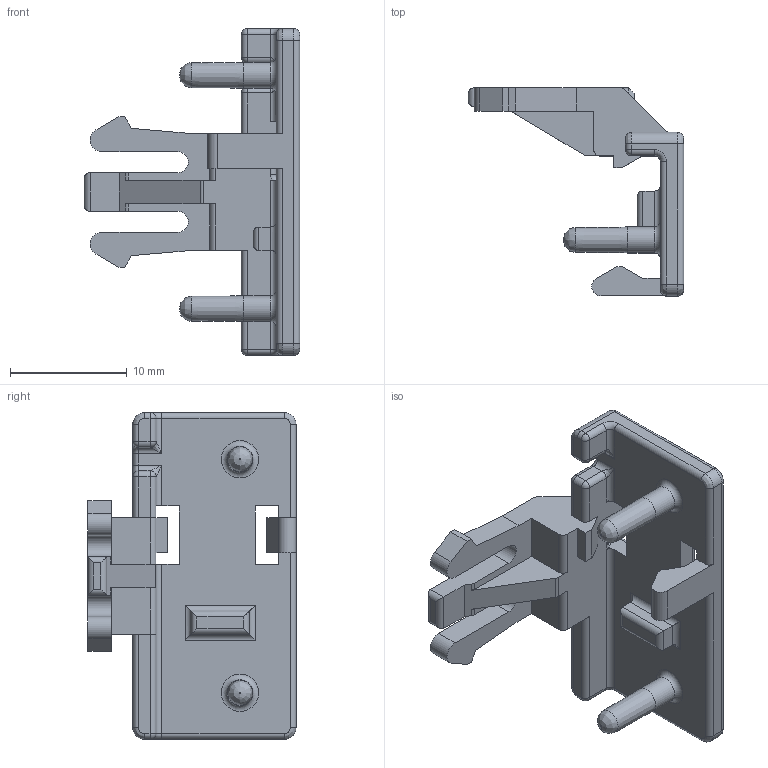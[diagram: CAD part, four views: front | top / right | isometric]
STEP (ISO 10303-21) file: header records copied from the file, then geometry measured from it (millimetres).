
FILE_DESCRIPTION(/* description */ (''),/* implementation_level */ '2;1');
FILE_NAME(/* name */ '43_1000150',/* time_stamp */ '2014-08-07T13:47:21+02:00',/* author */ (''),/* organization */ (''),/* preprocessor_version */ 'ST-DEVELOPER v9',/* originating_system */ 'UGS - NX 4.0',/* authorisation */ '');
FILE_SCHEMA (('CONFIG_CONTROL_DESIGN'));
Length unit declared in the file: millimetre
Products named in the file (1): MTro3787xhuy
Bounding box: 18.46 x 17.83 x 28 mm (x, y, z)
Volume: 1348 mm3; surface area: 1759.6 mm2
Topology: 1 solids, 1 shells, 187 faces, 473 edges, 275 vertices
Faces by surface type: cylinder 82, plane 69, bspline 14, torus 10, sphere 9, cone 3
Full cylindrical faces by diameter (mm): 2 x1, 2.2 x2
Entity records: 5683 total; most frequent: CARTESIAN_POINT 1177, DIRECTION 964, ORIENTED_EDGE 898, EDGE_CURVE 449, AXIS2_PLACEMENT_3D 344, LINE 276, VECTOR 276, VERTEX_POINT 274
